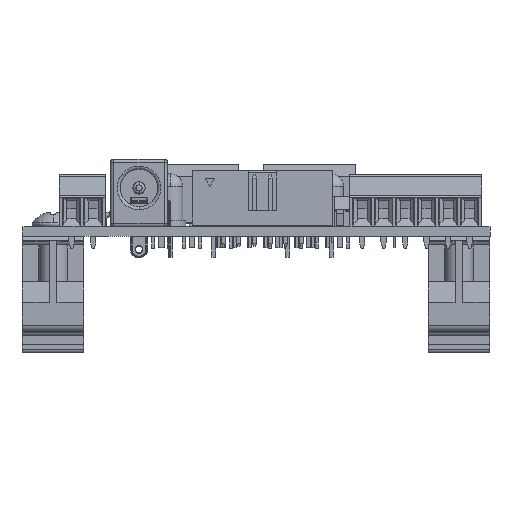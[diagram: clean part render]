
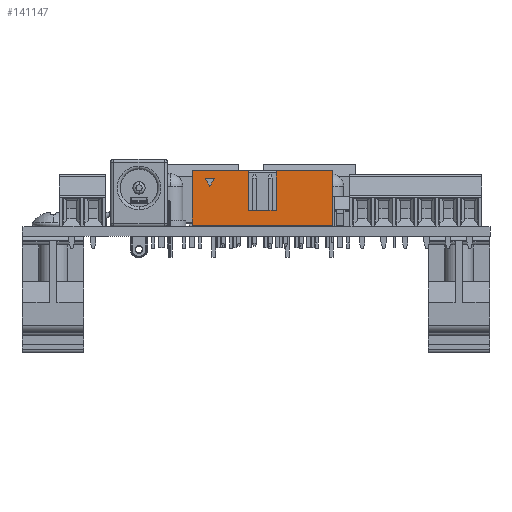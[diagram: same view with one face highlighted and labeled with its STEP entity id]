
A CAD part, front view. The second image highlights one B-rep face of the part: STEP entity #141147.
In plain terms, the highlighted planar face has unit normal (0, -1, 0).
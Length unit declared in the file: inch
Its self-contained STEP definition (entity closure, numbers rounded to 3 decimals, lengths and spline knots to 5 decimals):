
#369 = CARTESIAN_POINT ( 'NONE',  ( 1.99011, 0.32618, 0.18357 ) ) ;
#1093 = CARTESIAN_POINT ( 'NONE',  ( 1.5905, 0.32618, 0.30956 ) ) ;
#6478 = VECTOR ( 'NONE', #87559, 39.37008 ) ;
#10926 = VERTEX_POINT ( 'NONE', #314678 ) ;
#12099 = EDGE_CURVE ( 'NONE', #49312, #185254, #116764, .T. ) ;
#14522 = CARTESIAN_POINT ( 'NONE',  ( 1.2034, 0.32618, 0.25841 ) ) ;
#15229 = ORIENTED_EDGE ( 'NONE', *, *, #264518, .T. ) ;
#20137 = DIRECTION ( 'NONE',  ( 0., 0., 1. ) ) ;
#32565 = EDGE_LOOP ( 'NONE', ( #207414, #15229, #49158, #175751, #149735, #309421, #278317, #130835 ) ) ;
#33488 = CARTESIAN_POINT ( 'NONE',  ( 1.2034, 0.32618, 0.25841 ) ) ;
#35687 = VECTOR ( 'NONE', #175325, 39.37008 ) ;
#47107 = CARTESIAN_POINT ( 'NONE',  ( 1.5905, 0.32618, 0.01034 ) ) ;
#49158 = ORIENTED_EDGE ( 'NONE', *, *, #255930, .F. ) ;
#49229 = CARTESIAN_POINT ( 'NONE',  ( 1.09089, 0.32618, 0.3568 ) ) ;
#49312 = VERTEX_POINT ( 'NONE', #249175 ) ;
#49467 = VERTEX_POINT ( 'NONE', #186481 ) ;
#52424 = ORIENTED_EDGE ( 'NONE', *, *, #276057, .F. ) ;
#53649 = EDGE_CURVE ( 'NONE', #288980, #137197, #308957, .T. ) ;
#57804 = DIRECTION ( 'NONE',  ( -1., 0., 0. ) ) ;
#64051 = DIRECTION ( 'NONE',  ( -0.447, 0., 0.894 ) ) ;
#64494 = VECTOR ( 'NONE', #194974, 39.37008 ) ;
#70194 = CARTESIAN_POINT ( 'NONE',  ( 1.99011, 0.32618, 0.01034 ) ) ;
#81291 = CARTESIAN_POINT ( 'NONE',  ( 1.09089, 0.32618, 0.18357 ) ) ;
#87559 = DIRECTION ( 'NONE',  ( 1., 0., 0. ) ) ;
#90331 = DIRECTION ( 'NONE',  ( 1., 0., 0. ) ) ;
#95618 = CARTESIAN_POINT ( 'NONE',  ( 1.17387, 0.32618, 0.30956 ) ) ;
#104774 = CARTESIAN_POINT ( 'NONE',  ( 1.5905, 0.32618, 0.3568 ) ) ;
#114270 = LINE ( 'NONE', #81291, #252254 ) ;
#115118 = PLANE ( 'NONE',  #333349 ) ;
#116764 = LINE ( 'NONE', #47107, #35687 ) ;
#121314 = VECTOR ( 'NONE', #20137, 39.37008 ) ;
#122140 = LINE ( 'NONE', #201960, #215518 ) ;
#130790 = DIRECTION ( 'NONE',  ( 1., 0., 0. ) ) ;
#130835 = ORIENTED_EDGE ( 'NONE', *, *, #166919, .F. ) ;
#133321 = VERTEX_POINT ( 'NONE', #195976 ) ;
#134489 = DIRECTION ( 'NONE',  ( 0.5, 0., -0.866 ) ) ;
#137197 = VERTEX_POINT ( 'NONE', #95618 ) ;
#141147 = ADVANCED_FACE ( 'NONE', ( #273404, #155841 ), #115118, .F. ) ;
#141219 = DIRECTION ( 'NONE',  ( 0., 1., 0. ) ) ;
#144662 = LINE ( 'NONE', #288412, #6478 ) ;
#149735 = ORIENTED_EDGE ( 'NONE', *, *, #12099, .T. ) ;
#155841 = FACE_BOUND ( 'NONE', #273967, .T. ) ;
#161600 = VECTOR ( 'NONE', #130790, 39.37008 ) ;
#166919 = EDGE_CURVE ( 'NONE', #323942, #304165, #190262, .T. ) ;
#168367 = CARTESIAN_POINT ( 'NONE',  ( 2.09011, 0.32618, 0.01034 ) ) ;
#175325 = DIRECTION ( 'NONE',  ( 1., 0., 0. ) ) ;
#175751 = ORIENTED_EDGE ( 'NONE', *, *, #268656, .T. ) ;
#178200 = VECTOR ( 'NONE', #90331, 39.37008 ) ;
#179711 = VERTEX_POINT ( 'NONE', #14522 ) ;
#182591 = VECTOR ( 'NONE', #214710, 39.37008 ) ;
#185254 = VERTEX_POINT ( 'NONE', #70194 ) ;
#186481 = CARTESIAN_POINT ( 'NONE',  ( 1.45192, 0.32618, 0.10483 ) ) ;
#187689 = DIRECTION ( 'NONE',  ( 0., 0., -1. ) ) ;
#190262 = LINE ( 'NONE', #202720, #121314 ) ;
#194499 = LINE ( 'NONE', #245596, #178200 ) ;
#194974 = DIRECTION ( 'NONE',  ( 0., 0., 1. ) ) ;
#195976 = CARTESIAN_POINT ( 'NONE',  ( 1.45192, 0.32618, 0.3568 ) ) ;
#201960 = CARTESIAN_POINT ( 'NONE',  ( 1.23293, 0.32618, 0.30956 ) ) ;
#202720 = CARTESIAN_POINT ( 'NONE',  ( 1.62908, 0.32618, -0.08236 ) ) ;
#207414 = ORIENTED_EDGE ( 'NONE', *, *, #255495, .F. ) ;
#214710 = DIRECTION ( 'NONE',  ( 0., 0., 1. ) ) ;
#215518 = VECTOR ( 'NONE', #280267, 39.37008 ) ;
#216562 = CARTESIAN_POINT ( 'NONE',  ( 1.45192, 0.32618, -0.08236 ) ) ;
#219610 = VECTOR ( 'NONE', #57804, 39.37008 ) ;
#229113 = ORIENTED_EDGE ( 'NONE', *, *, #331894, .F. ) ;
#230528 = LINE ( 'NONE', #104774, #161600 ) ;
#234967 = LINE ( 'NONE', #216562, #64494 ) ;
#245596 = CARTESIAN_POINT ( 'NONE',  ( 1.5905, 0.32618, 0.10483 ) ) ;
#249175 = CARTESIAN_POINT ( 'NONE',  ( 1.09089, 0.32618, 0.01034 ) ) ;
#252254 = VECTOR ( 'NONE', #187689, 39.37008 ) ;
#255495 = EDGE_CURVE ( 'NONE', #49467, #323942, #194499, .T. ) ;
#255930 = EDGE_CURVE ( 'NONE', #292360, #133321, #230528, .T. ) ;
#264518 = EDGE_CURVE ( 'NONE', #49467, #133321, #234967, .T. ) ;
#266772 = CARTESIAN_POINT ( 'NONE',  ( 1.62908, 0.32618, 0.3568 ) ) ;
#267891 = LINE ( 'NONE', #369, #182591 ) ;
#268656 = EDGE_CURVE ( 'NONE', #292360, #49312, #114270, .T. ) ;
#269684 = ORIENTED_EDGE ( 'NONE', *, *, #53649, .F. ) ;
#273404 = FACE_OUTER_BOUND ( 'NONE', #32565, .T. ) ;
#273967 = EDGE_LOOP ( 'NONE', ( #52424, #269684, #229113 ) ) ;
#276057 = EDGE_CURVE ( 'NONE', #137197, #179711, #287888, .T. ) ;
#278317 = ORIENTED_EDGE ( 'NONE', *, *, #318966, .F. ) ;
#280267 = DIRECTION ( 'NONE',  ( 0.5, 0., 0.866 ) ) ;
#287888 = LINE ( 'NONE', #33488, #324446 ) ;
#288412 = CARTESIAN_POINT ( 'NONE',  ( 1.4905, 0.32618, 0.3568 ) ) ;
#288980 = VERTEX_POINT ( 'NONE', #333714 ) ;
#292360 = VERTEX_POINT ( 'NONE', #49229 ) ;
#304165 = VERTEX_POINT ( 'NONE', #266772 ) ;
#306661 = EDGE_CURVE ( 'NONE', #185254, #10926, #267891, .T. ) ;
#308957 = LINE ( 'NONE', #1093, #219610 ) ;
#309421 = ORIENTED_EDGE ( 'NONE', *, *, #306661, .T. ) ;
#314678 = CARTESIAN_POINT ( 'NONE',  ( 1.99011, 0.32618, 0.3568 ) ) ;
#318966 = EDGE_CURVE ( 'NONE', #304165, #10926, #144662, .T. ) ;
#323942 = VERTEX_POINT ( 'NONE', #334114 ) ;
#324446 = VECTOR ( 'NONE', #134489, 39.37008 ) ;
#331894 = EDGE_CURVE ( 'NONE', #179711, #288980, #122140, .T. ) ;
#333349 = AXIS2_PLACEMENT_3D ( 'NONE', #168367, #141219, #64051 ) ;
#333714 = CARTESIAN_POINT ( 'NONE',  ( 1.23293, 0.32618, 0.30956 ) ) ;
#334114 = CARTESIAN_POINT ( 'NONE',  ( 1.62908, 0.32618, 0.10483 ) ) ;
